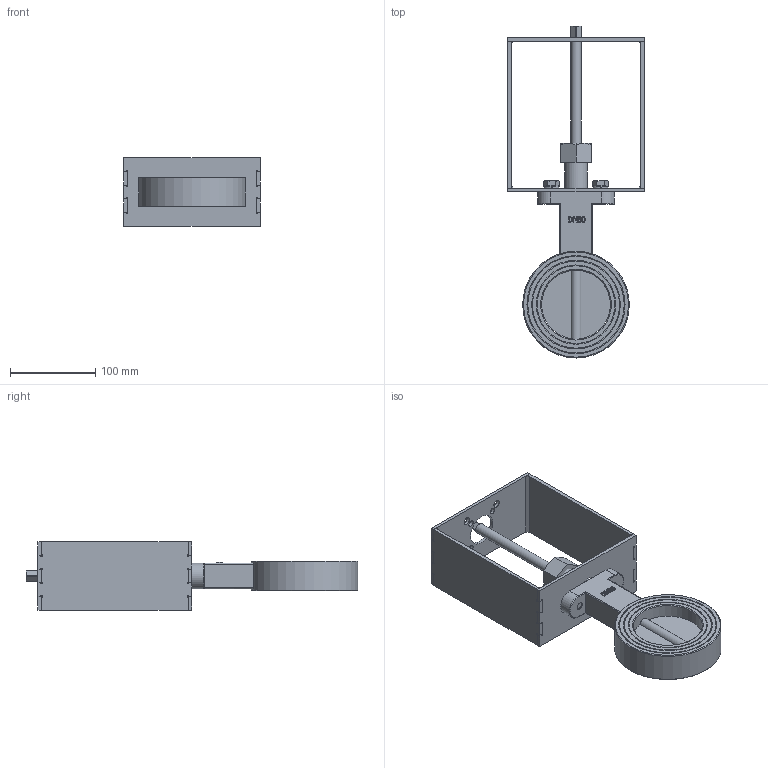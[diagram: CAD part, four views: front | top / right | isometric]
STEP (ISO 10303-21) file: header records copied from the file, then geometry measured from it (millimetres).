
FILE_DESCRIPTION(/* description */ (''),/* implementation_level */ '2;1');
FILE_NAME(/* name */ 'C:\Users\miv\Desktop\Typ 5k DN80\Typ 5k DN80.stp',/* time_stamp */ '2015-03-24T10:13:36+01:00',/* author */ ('Technik-3D'),/* organization */ (''),/* preprocessor_version */ 'ST-DEVELOPER v15.6',/* originating_system */ 'Autodesk Inventor 2015',/* authorisation */ '');
FILE_SCHEMA (('AUTOMOTIVE_DESIGN { 1 0 10303 214 3 1 1 }'));
Length unit declared in the file: millimetre
Products named in the file (14): Gussring DN80; Graphitbuchse d=12; Stopfbuchse d=12 MS; ISO 49 Kappe T1 3_4; Konsole F05,07 ab DN200_Schweißnähte; Unterteil Konsole F05, F07, ST; Seitenteil F05, F07, ST; Oberteil Konsole F05, F07, ST; Konsole F05,07 ab DN200; DIN 127 - A 10; ISO 4017 - M10 x 20DIN EN; Welle; Ronde d=80,5; Typ 5k DN80
Bounding box: 160 x 389 x 80 mm (x, y, z)
Volume: 633857.7 mm3; surface area: 218667.9 mm2
Topology: 18 solids, 18 shells, 374 faces, 910 edges, 600 vertices
Faces by surface type: plane 214, cylinder 90, bspline 39, cone 29, torus 2
Full cylindrical faces by diameter (mm): 7 x4, 8.376 x2, 9 x4, 10 x2, 11 x2, 12 x2, 12.5 x3, 13 x1, 14.63 x2, 17.5 x1, 18 x2, 20 x1, 26.9 x1, 35 x1, 37 x1, 80.5 x1, 81 x1, 91 x2, 93 x2, 102 x2, 104 x2, 113 x2, 115 x2, 125 x1
Entity records: 9627 total; most frequent: CARTESIAN_POINT 2185, DIRECTION 1401, ORIENTED_EDGE 1396, EDGE_CURVE 698, AXIS2_PLACEMENT_3D 495, VERTEX_POINT 493, EDGE_LOOP 441, LINE 411
